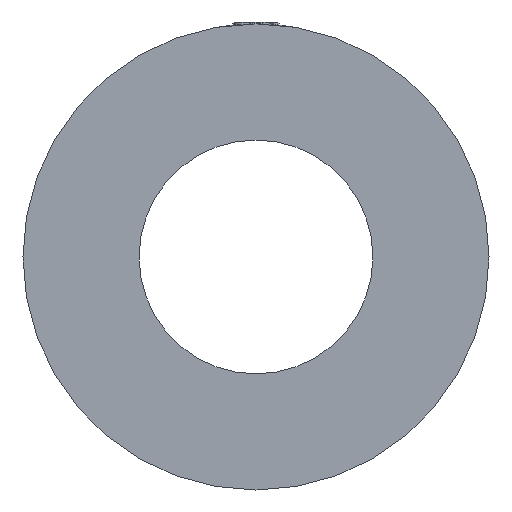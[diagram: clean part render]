
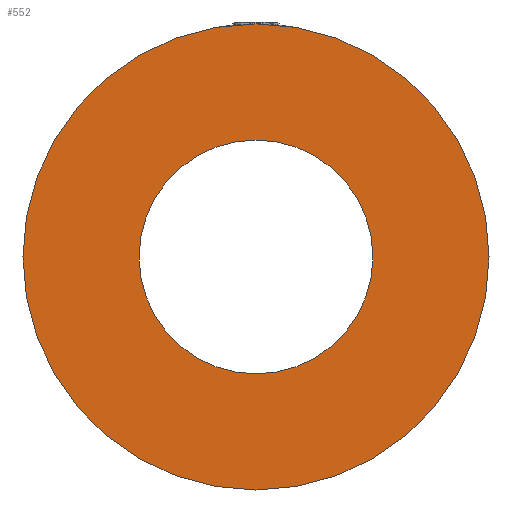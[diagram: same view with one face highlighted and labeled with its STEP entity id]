
A CAD part, left-side view. The second image highlights one B-rep face of the part: STEP entity #552.
In plain terms, the highlighted planar face has unit normal (-1, 0, 0).
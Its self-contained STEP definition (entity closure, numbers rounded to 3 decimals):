
#137 = CARTESIAN_POINT ( 'NONE',  ( 0., 0., 30.6 ) ) ;
#389 = FACE_BOUND ( 'NONE', #853, .T. ) ;
#416 = CARTESIAN_POINT ( 'NONE',  ( 0., 0., 61. ) ) ;
#498 = CARTESIAN_POINT ( 'NONE',  ( 0., 0., -61. ) ) ;
#552 = ADVANCED_FACE ( 'NONE', ( #389, #693 ), #1892, .F. ) ;
#553 = DIRECTION ( 'NONE',  ( 0., 0., 1. ) ) ;
#668 = VERTEX_POINT ( 'NONE', #416 ) ;
#693 = FACE_OUTER_BOUND ( 'NONE', #2385, .T. ) ;
#777 = DIRECTION ( 'NONE',  ( -1., 0., 0. ) ) ;
#791 = CARTESIAN_POINT ( 'NONE',  ( 0., 0., 0. ) ) ;
#853 = EDGE_LOOP ( 'NONE', ( #1349, #1423 ) ) ;
#1002 = CIRCLE ( 'NONE', #2946, 30.6 ) ;
#1051 = CIRCLE ( 'NONE', #2971, 30.6 ) ;
#1349 = ORIENTED_EDGE ( 'NONE', *, *, #2565, .F. ) ;
#1423 = ORIENTED_EDGE ( 'NONE', *, *, #1568, .F. ) ;
#1464 = CIRCLE ( 'NONE', #2615, 61. ) ;
#1507 = VERTEX_POINT ( 'NONE', #2510 ) ;
#1568 = EDGE_CURVE ( 'NONE', #1507, #2378, #1002, .T. ) ;
#1613 = AXIS2_PLACEMENT_3D ( 'NONE', #1718, #1672, #1669 ) ;
#1669 = DIRECTION ( 'NONE',  ( 0., 0., -1. ) ) ;
#1672 = DIRECTION ( 'NONE',  ( 1., 0., 0. ) ) ;
#1674 = DIRECTION ( 'NONE',  ( 0., 0., 1. ) ) ;
#1688 = DIRECTION ( 'NONE',  ( -1., 0., 0. ) ) ;
#1708 = CARTESIAN_POINT ( 'NONE',  ( 0., 0., 0. ) ) ;
#1718 = CARTESIAN_POINT ( 'NONE',  ( 0., 30.6, 0. ) ) ;
#1892 = PLANE ( 'NONE',  #1613 ) ;
#1931 = DIRECTION ( 'NONE',  ( 0., 0., 1. ) ) ;
#2032 = CIRCLE ( 'NONE', #2513, 61. ) ;
#2053 = DIRECTION ( 'NONE',  ( -1., 0., 0. ) ) ;
#2067 = DIRECTION ( 'NONE',  ( 0., 0., 1. ) ) ;
#2073 = CARTESIAN_POINT ( 'NONE',  ( 0., 0., 0. ) ) ;
#2079 = DIRECTION ( 'NONE',  ( -1., 0., 0. ) ) ;
#2083 = CARTESIAN_POINT ( 'NONE',  ( 0., 0., 0. ) ) ;
#2292 = VERTEX_POINT ( 'NONE', #498 ) ;
#2378 = VERTEX_POINT ( 'NONE', #137 ) ;
#2385 = EDGE_LOOP ( 'NONE', ( #2890, #2544 ) ) ;
#2510 = CARTESIAN_POINT ( 'NONE',  ( 0., 0., -30.6 ) ) ;
#2513 = AXIS2_PLACEMENT_3D ( 'NONE', #1708, #1688, #1674 ) ;
#2544 = ORIENTED_EDGE ( 'NONE', *, *, #2802, .T. ) ;
#2565 = EDGE_CURVE ( 'NONE', #2378, #1507, #1051, .T. ) ;
#2615 = AXIS2_PLACEMENT_3D ( 'NONE', #2073, #2053, #1931 ) ;
#2802 = EDGE_CURVE ( 'NONE', #2292, #668, #1464, .T. ) ;
#2835 = EDGE_CURVE ( 'NONE', #668, #2292, #2032, .T. ) ;
#2890 = ORIENTED_EDGE ( 'NONE', *, *, #2835, .T. ) ;
#2946 = AXIS2_PLACEMENT_3D ( 'NONE', #2083, #2079, #2067 ) ;
#2971 = AXIS2_PLACEMENT_3D ( 'NONE', #791, #777, #553 ) ;
